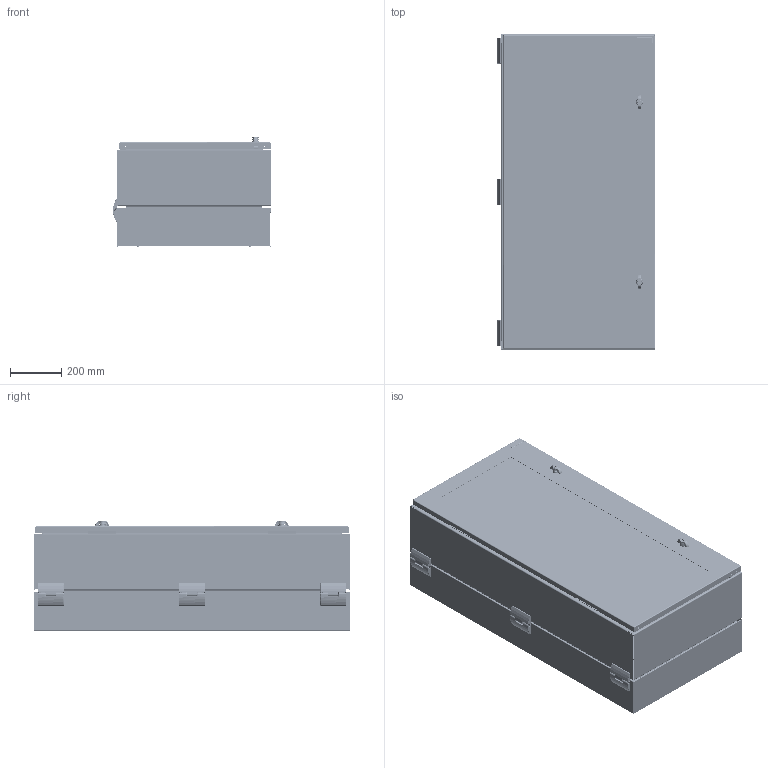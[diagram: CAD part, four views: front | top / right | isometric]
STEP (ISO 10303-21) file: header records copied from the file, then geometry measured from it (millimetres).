
FILE_DESCRIPTION (( 'STEP AP203' ), '1' );
FILE_NAME ('pthw482415g2.STEP', '2011-10-17T19:49:33', ( 'Hoffman User' ), ( 'Hoffman Enclosures' ), 'SwSTEP 2.0', 'SolidWorks 2010', '' );
FILE_SCHEMA (( 'CONFIG_CONTROL_DESIGN' ));
Products named in the file (50): pthw482415g2; 89078335; 89078334; 89060190; 89060191; 89071699_Installed Config; 89079079; 89079080; 89079081; 89078778; 89074728_89060267; 89074726_Compressed wdw gasket; 89074724_89060269; 60127101_60127101; 60100041_60100041; 87931527_87931527; 87931368_SLEEVE; 99401225; 89074727; 89074725_Compressed; 89071927_FOR 16GA; 99407418; 87794349_87794349; 87556213; 87556214; 87922656; 87928600; 64138001; 89066975; 89066980; 89066979_WITH STAKE; 89066976; 89066978; 89066977; 87540581; 87790199; 60127214_601272214; 87790201_87790201; 60127135_Installed postion; 60127199_60127199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
Assembly tree (145 placements, depth 5):
  pthw482415g2
    89070550  x3
      89070549
      89056327
    89060213  x3
    89066980  x3
      89066976
      87540581
      89066979_WITH STAKE
    89060214  x3
    89079079
      99401225  x20
      89079081
      89079080
      60100041_60100041  x2
        87931527_87931527
        87931368_SLEEVE
      89078778  x2
    60127214_601272214  x2
      60127135_Installed postion
      60127199_60127199
      56906712_56906712
      87790201_87790201
    87790199  x2
    89070897  x3
    89078335
      89071699_Installed Config  x7
      60100041_60100041
        87931527_87931527
        87931368_SLEEVE
      89060190  x2
      89060191  x2
      89078334
      89074727
    89060212  x3
    89060606_89060606  x2
    89066978  x3
      89066977
      87540581
    89072125_87931339  x2
    89074728_89060267
      87922656  x16
      87556213  x4
      87556214  x2
      64138001  x2
      89071927_FOR 16GA  x2
      87928600
      99407418  x2
      89074726_Compressed wdw gasket
        99401225  x16
        89074725_Compressed
        60127101_60127101  x2
        89074727
        89074724_89060269
        60100041_60100041
          87931527_87931527
          87931368_SLEEVE
      87794349_87794349
    89066975  x3
Bounding box: 616 x 1233 x 429.17 mm (x, y, z)
Volume: 9643241.6 mm3; surface area: 8400796.1 mm2
Topology: 155 solids, 175 shells, 9751 faces, 24188 edges, 14871 vertices
Faces by surface type: plane 4259, cylinder 2888, bspline 1269, cone 789, torus 398, sphere 148
Entity records: 172284 total; most frequent: CARTESIAN_POINT 76258, ORIENTED_EDGE 19102, DIRECTION 17191, EDGE_CURVE 9551, AXIS2_PLACEMENT_3D 6116, VERTEX_POINT 5926, VECTOR 4959, LINE 4959
